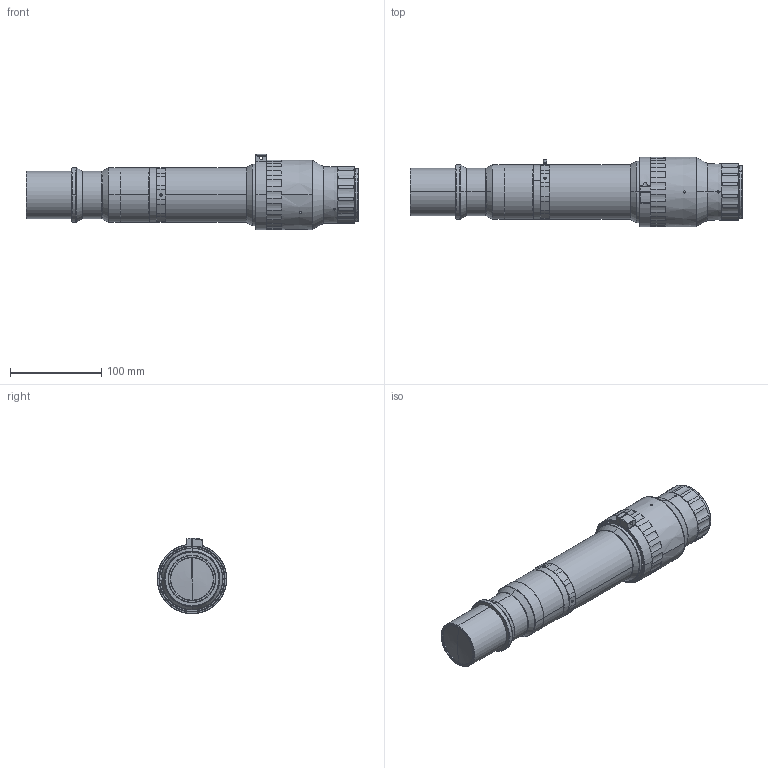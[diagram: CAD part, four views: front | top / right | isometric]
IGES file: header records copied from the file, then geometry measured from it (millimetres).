
Start section: SolidWorks IGES file using analytic representation for surfaces
Bounding box: 363.45 x 76 x 82.49 mm (x, y, z)
Surface area: 90684 mm2 (no closed solid volume)
Topology: 0 solids, 0 shells, 499 faces, 6105 edges, 6101 vertices
Faces by surface type: revolution 344, bspline 155
